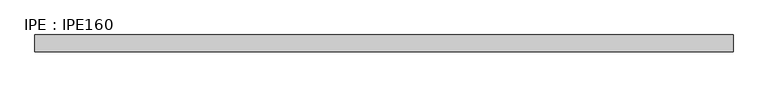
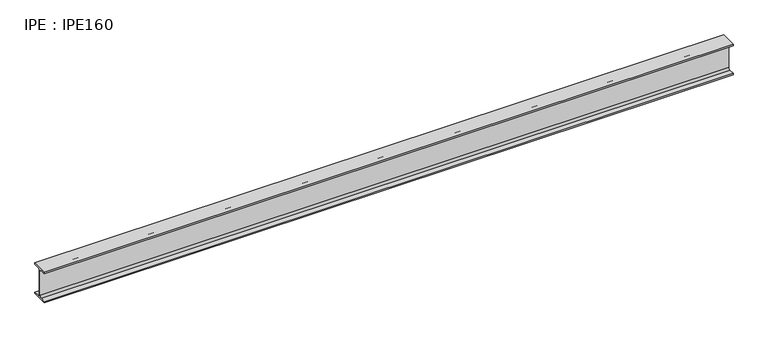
"""IFC4 building model written with IfcOpenShell, lengths in millimetres: beam geometry, IPE : IPE160."""

from ifc_helpers import new_model, si_unit, point, frame, frame_2d, origin, place, context, project, spatial, polyline, circle_curve, trimmed, segment, composite_curve, outline, extrude, source, transform, mapped, element, save


def ipe_ipe160_a826507c(model_context):
    return source(origin(), model_context, "Body", "SweptSolid", [
        extrude(outline(composite_curve([segment(polyline([(41.0, -72.6), (41.0, -80.0), (-41.0, -80.0), (-41.0, -72.6), (-11.5, -72.6)]), True, "CONTINUOUS"), segment(trimmed(circle_curve(frame_2d((-11.5, -63.6)), 9.0), [point((-11.5, -72.6))], [point((-2.5, -63.6))], True, "CARTESIAN"), True, "CONTINUOUS"), segment(polyline([(-2.5, -63.6), (-2.5, 63.6)]), True, "CONTINUOUS"), segment(trimmed(circle_curve(frame_2d((-11.5, 63.6)), 9.0), [point((-2.5, 63.6))], [point((-11.5, 72.6))], True, "CARTESIAN"), True, "CONTINUOUS"), segment(polyline([(-11.5, 72.6), (-41.0, 72.6), (-41.0, 80.0), (41.0, 80.0), (41.0, 72.6), (11.5, 72.6)]), True, "CONTINUOUS"), segment(trimmed(circle_curve(frame_2d((11.5, 63.6)), 9.0), [point((11.5, 72.6))], [point((2.5, 63.6))], True, "CARTESIAN"), True, "CONTINUOUS"), segment(polyline([(2.5, 63.6), (2.5, -63.6)]), True, "CONTINUOUS"), segment(trimmed(circle_curve(frame_2d((11.5, -63.6)), 9.0), [point((2.5, -63.6))], [point((11.5, -72.6))], True, "CARTESIAN"), True, "CONTINUOUS"), segment(polyline([(11.5, -72.6), (41.0, -72.6)]), True, "CONTINUOUS")], self_intersect=False)), frame((-1665.7, 0.0, 0.0), z_axis=(1.0, 0.0, 0.0), x_axis=(0.0, 1.0, 0.0)), (0.0, 0.0, 1.0), 3417.4),
    ])


if __name__ == "__main__":
    model = new_model("IFC4")
    model_context = context("Model", 3, world=origin())
    ifc_project = project(units=[si_unit("LENGTHUNIT", "METRE", prefix="MILLI")], contexts=[model_context])
    site = spatial("IfcSite", under=ifc_project)
    building = spatial("IfcBuilding", under=site)
    placement = place(None, origin())
    ipe_ipe160_shape = ipe_ipe160_a826507c(model_context)
    element("IfcBeam", 1, ObjectType="IPE : IPE160", at=placement, inside=building, context=model_context, shape_type="MappedRepresentation", body=[
        mapped(ipe_ipe160_shape, transform((0.0, 0.0, 0.0), x_axis=(1.0, 0.0, 0.0), y_axis=(0.0, 1.0, 0.0), z_axis=(0.0, 0.0, 1.0))),
    ])
    save(model, "model.ifc")
